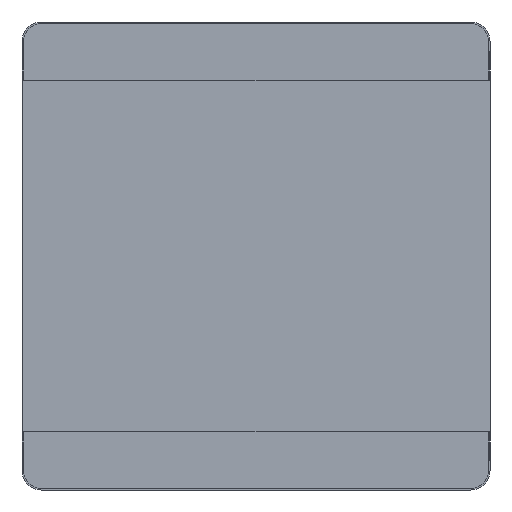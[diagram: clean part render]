
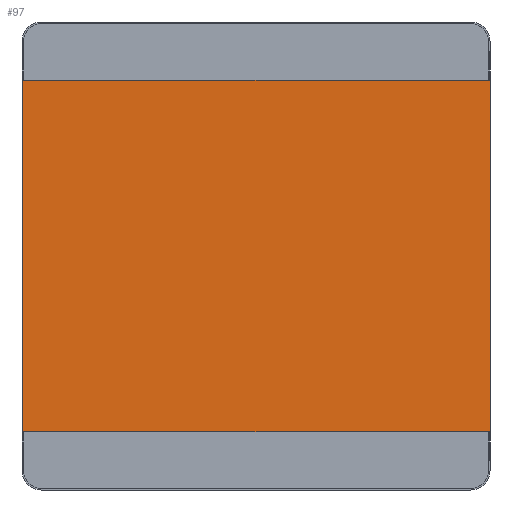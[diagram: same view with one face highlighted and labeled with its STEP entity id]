
A CAD part, front view. The second image highlights one B-rep face of the part: STEP entity #97.
In plain terms, the highlighted planar face has unit normal (0, -1, 0).
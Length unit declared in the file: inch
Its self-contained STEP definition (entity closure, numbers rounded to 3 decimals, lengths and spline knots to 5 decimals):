
#46 = AXIS2_PLACEMENT_3D ( 'NONE', #1526, #204, #1404 ) ;
#47 = EDGE_CURVE ( 'NONE', #880, #1163, #1336, .T. ) ;
#97 = ADVANCED_FACE ( 'NONE', ( #1612 ), #1817, .F. ) ;
#204 = DIRECTION ( 'NONE',  ( 0., 1., 0. ) ) ;
#249 = VECTOR ( 'NONE', #1813, 39.37008 ) ;
#258 = DIRECTION ( 'NONE',  ( -1., 0., 0. ) ) ;
#270 = ORIENTED_EDGE ( 'NONE', *, *, #47, .F. ) ;
#307 = CARTESIAN_POINT ( 'NONE',  ( 48., 3.25, 5.965 ) ) ;
#433 = CARTESIAN_POINT ( 'NONE',  ( 0., 3.25, 42.035 ) ) ;
#502 = CARTESIAN_POINT ( 'NONE',  ( 0., 3.25, 5.965 ) ) ;
#569 = LINE ( 'NONE', #1792, #249 ) ;
#593 = EDGE_CURVE ( 'NONE', #1437, #1163, #569, .T. ) ;
#694 = CARTESIAN_POINT ( 'NONE',  ( 24., 3.25, 42.035 ) ) ;
#738 = CARTESIAN_POINT ( 'NONE',  ( 48., 3.25, 42.035 ) ) ;
#799 = LINE ( 'NONE', #694, #1670 ) ;
#804 = VECTOR ( 'NONE', #1645, 39.37008 ) ;
#805 = ORIENTED_EDGE ( 'NONE', *, *, #1342, .T. ) ;
#880 = VERTEX_POINT ( 'NONE', #1288 ) ;
#1060 = EDGE_LOOP ( 'NONE', ( #1275, #270, #1535, #805 ) ) ;
#1163 = VERTEX_POINT ( 'NONE', #502 ) ;
#1171 = VECTOR ( 'NONE', #1356, 39.37008 ) ;
#1275 = ORIENTED_EDGE ( 'NONE', *, *, #593, .T. ) ;
#1288 = CARTESIAN_POINT ( 'NONE',  ( 48., 3.25, 5.965 ) ) ;
#1336 = LINE ( 'NONE', #1637, #804 ) ;
#1342 = EDGE_CURVE ( 'NONE', #1419, #1437, #799, .T. ) ;
#1356 = DIRECTION ( 'NONE',  ( 0., 0., -1. ) ) ;
#1404 = DIRECTION ( 'NONE',  ( 0., 0., 1. ) ) ;
#1419 = VERTEX_POINT ( 'NONE', #738 ) ;
#1437 = VERTEX_POINT ( 'NONE', #433 ) ;
#1526 = CARTESIAN_POINT ( 'NONE',  ( 24., 3.25, 5.965 ) ) ;
#1531 = EDGE_CURVE ( 'NONE', #1419, #880, #1892, .T. ) ;
#1535 = ORIENTED_EDGE ( 'NONE', *, *, #1531, .F. ) ;
#1612 = FACE_OUTER_BOUND ( 'NONE', #1060, .T. ) ;
#1637 = CARTESIAN_POINT ( 'NONE',  ( 24., 3.25, 5.965 ) ) ;
#1645 = DIRECTION ( 'NONE',  ( -1., 0., 0. ) ) ;
#1670 = VECTOR ( 'NONE', #258, 39.37008 ) ;
#1792 = CARTESIAN_POINT ( 'NONE',  ( 0., 3.25, 5.965 ) ) ;
#1813 = DIRECTION ( 'NONE',  ( 0., 0., -1. ) ) ;
#1817 = PLANE ( 'NONE',  #46 ) ;
#1892 = LINE ( 'NONE', #307, #1171 ) ;
